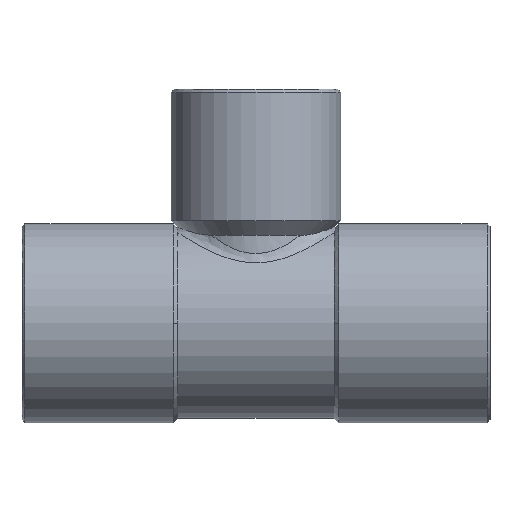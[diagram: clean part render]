
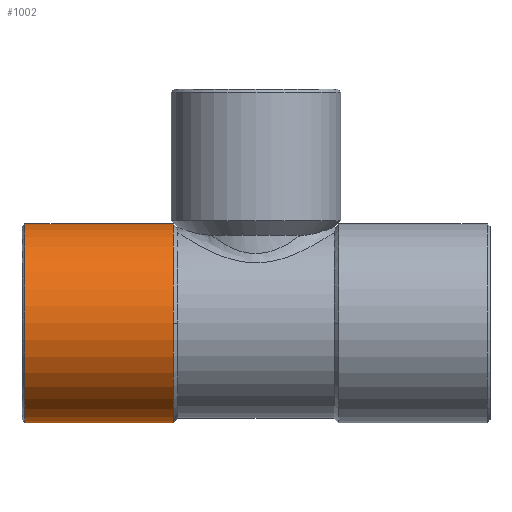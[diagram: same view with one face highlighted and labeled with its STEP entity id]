
A CAD part, top view. The second image highlights one B-rep face of the part: STEP entity #1002.
In plain terms, the highlighted cylindrical face has radius 6.8 mm (diameter 13.6 mm), a partial arc.
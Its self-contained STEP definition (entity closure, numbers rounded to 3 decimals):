
#129=CARTESIAN_POINT('',(-5.65,0.,6.8));
#130=VERTEX_POINT('',#129);
#139=CARTESIAN_POINT('',(-5.65,-6.8,0.));
#140=VERTEX_POINT('',#139);
#141=CARTESIAN_POINT('',(-5.65,0.0,0.0));
#142=DIRECTION('',(1.0,0.0,0.0));
#143=DIRECTION('',(0.0,1.0,0.0));
#144=AXIS2_PLACEMENT_3D('',#141,#142,#143);
#145=CIRCLE('',#144,6.8);
#146=EDGE_CURVE('',#130,#140,#145,.T.);
#962=CARTESIAN_POINT('',(-10.825,0.0,0.0));
#963=DIRECTION('',(1.0,0.0,0.0));
#964=DIRECTION('',(0.0,1.0,0.0));
#965=AXIS2_PLACEMENT_3D('',#962,#963,#964);
#966=CYLINDRICAL_SURFACE('',#965,6.8);
#967=CARTESIAN_POINT('',(-15.8,6.8,0.));
#968=VERTEX_POINT('',#967);
#969=CARTESIAN_POINT('',(-5.65,6.8,0.0));
#970=VERTEX_POINT('',#969);
#971=CARTESIAN_POINT('',(-15.8,6.8,0.));
#972=DIRECTION('',(1.0,0.0,0.0));
#973=VECTOR('',#972,10.15);
#974=LINE('',#971,#973);
#975=EDGE_CURVE('',#968,#970,#974,.T.);
#976=ORIENTED_EDGE('',*,*,#975,.F.);
#977=CARTESIAN_POINT('',(-15.8,-6.8,0.));
#978=VERTEX_POINT('',#977);
#979=CARTESIAN_POINT('',(-15.8,0.0,0.0));
#980=DIRECTION('',(-1.0,0.0,0.0));
#981=DIRECTION('',(0.0,-1.0,0.0));
#982=AXIS2_PLACEMENT_3D('',#979,#980,#981);
#983=CIRCLE('',#982,6.8);
#984=EDGE_CURVE('',#978,#968,#983,.T.);
#985=ORIENTED_EDGE('',*,*,#984,.F.);
#986=CARTESIAN_POINT('',(-5.65,-6.8,0.));
#987=DIRECTION('',(-1.0,0.0,0.0));
#988=VECTOR('',#987,10.15);
#989=LINE('',#986,#988);
#990=EDGE_CURVE('',#140,#978,#989,.T.);
#991=ORIENTED_EDGE('',*,*,#990,.F.);
#992=ORIENTED_EDGE('',*,*,#146,.F.);
#993=CARTESIAN_POINT('',(-5.65,0.0,0.0));
#994=DIRECTION('',(1.0,0.0,0.0));
#995=DIRECTION('',(0.0,1.0,0.0));
#996=AXIS2_PLACEMENT_3D('',#993,#994,#995);
#997=CIRCLE('',#996,6.8);
#998=EDGE_CURVE('',#970,#130,#997,.T.);
#999=ORIENTED_EDGE('',*,*,#998,.F.);
#1000=EDGE_LOOP('',(#976,#985,#991,#992,#999));
#1001=FACE_OUTER_BOUND('',#1000,.T.);
#1002=ADVANCED_FACE('',(#1001),#966,.T.);
